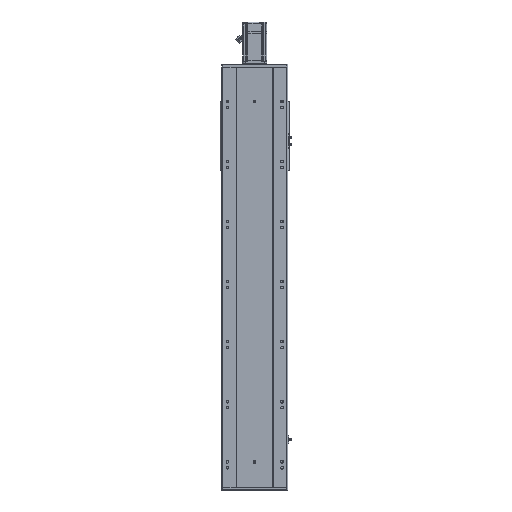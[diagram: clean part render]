
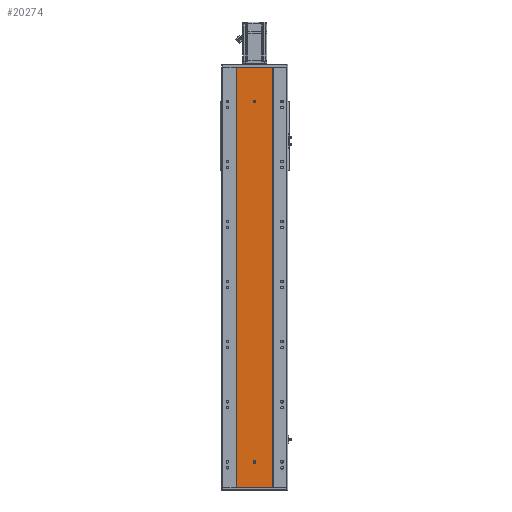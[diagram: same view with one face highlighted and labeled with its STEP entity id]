
A CAD part, front view. The second image highlights one B-rep face of the part: STEP entity #20274.
In plain terms, the highlighted planar face has unit normal (0, -1, 0).
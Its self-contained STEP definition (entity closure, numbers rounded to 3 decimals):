
#84 = VERTEX_POINT ( 'NONE', #32484 ) ;
#205 = DIRECTION ( 'NONE',  ( 0., -1., 0. ) ) ;
#1936 = VECTOR ( 'NONE', #26416, 1000. ) ;
#2653 = ORIENTED_EDGE ( 'NONE', *, *, #46954, .F. ) ;
#3609 = DIRECTION ( 'NONE',  ( 0., 0., -1. ) ) ;
#5309 = DIRECTION ( 'NONE',  ( 0., -1., 0. ) ) ;
#6714 = CARTESIAN_POINT ( 'NONE',  ( 0., 0., 1286. ) ) ;
#6964 = DIRECTION ( 'NONE',  ( 0., 1., 0. ) ) ;
#8021 = AXIS2_PLACEMENT_3D ( 'NONE', #56884, #6964, #63190 ) ;
#8202 = EDGE_LOOP ( 'NONE', ( #26762, #40699, #38052, #24310 ) ) ;
#8261 = EDGE_CURVE ( 'NONE', #84, #62556, #44749, .T. ) ;
#8438 = AXIS2_PLACEMENT_3D ( 'NONE', #14699, #58693, #3609 ) ;
#8534 = CARTESIAN_POINT ( 'NONE',  ( 4., 0., 84.5 ) ) ;
#10988 = CARTESIAN_POINT ( 'NONE',  ( 0., 0., 87.5 ) ) ;
#11557 = EDGE_CURVE ( 'NONE', #46070, #67801, #40801, .T. ) ;
#12675 = VECTOR ( 'NONE', #36760, 1000. ) ;
#12788 = CARTESIAN_POINT ( 'NONE',  ( -60., 0., 0. ) ) ;
#14699 = CARTESIAN_POINT ( 'NONE',  ( 0., 0., 1286. ) ) ;
#15151 = EDGE_CURVE ( 'NONE', #56654, #72740, #41499, .T. ) ;
#15365 = EDGE_CURVE ( 'NONE', #62556, #38494, #57344, .T. ) ;
#15594 = CARTESIAN_POINT ( 'NONE',  ( 60., 0., 1400. ) ) ;
#15865 = EDGE_CURVE ( 'NONE', #46070, #32328, #37876, .T. ) ;
#16155 = AXIS2_PLACEMENT_3D ( 'NONE', #51886, #18473, #56817 ) ;
#16164 = EDGE_LOOP ( 'NONE', ( #18832, #52267 ) ) ;
#18473 = DIRECTION ( 'NONE',  ( 0., -1., 0. ) ) ;
#18832 = ORIENTED_EDGE ( 'NONE', *, *, #15151, .F. ) ;
#19740 = DIRECTION ( 'NONE',  ( 0., -1., 0. ) ) ;
#20270 = DIRECTION ( 'NONE',  ( 1., 0., 0. ) ) ;
#20274 = ADVANCED_FACE ( 'NONE', ( #41723, #38182, #51418 ), #67611, .F. ) ;
#20291 = DIRECTION ( 'NONE',  ( 1., 0., 0. ) ) ;
#21464 = EDGE_CURVE ( 'NONE', #38494, #70655, #71598, .T. ) ;
#23655 = VERTEX_POINT ( 'NONE', #52208 ) ;
#23680 = ORIENTED_EDGE ( 'NONE', *, *, #72569, .F. ) ;
#23821 = CARTESIAN_POINT ( 'NONE',  ( -4., 0., 84.5 ) ) ;
#23957 = CARTESIAN_POINT ( 'NONE',  ( -60., 0., 1400. ) ) ;
#24310 = ORIENTED_EDGE ( 'NONE', *, *, #11557, .T. ) ;
#25848 = LINE ( 'NONE', #8534, #12675 ) ;
#26416 = DIRECTION ( 'NONE',  ( 0., 0., -1. ) ) ;
#26427 = DIRECTION ( 'NONE',  ( 0., 0., -1. ) ) ;
#26762 = ORIENTED_EDGE ( 'NONE', *, *, #47469, .T. ) ;
#27474 = DIRECTION ( 'NONE',  ( 0., 0., -1. ) ) ;
#27781 = VERTEX_POINT ( 'NONE', #70910 ) ;
#27894 = CARTESIAN_POINT ( 'NONE',  ( -60., 0., 1400. ) ) ;
#28276 = VECTOR ( 'NONE', #20291, 1000. ) ;
#29846 = VECTOR ( 'NONE', #63546, 1000. ) ;
#30663 = EDGE_CURVE ( 'NONE', #32328, #27781, #48542, .T. ) ;
#32328 = VERTEX_POINT ( 'NONE', #66126 ) ;
#32484 = CARTESIAN_POINT ( 'NONE',  ( -4., 0., 87.5 ) ) ;
#35894 = AXIS2_PLACEMENT_3D ( 'NONE', #6714, #19740, #26427 ) ;
#36713 = CARTESIAN_POINT ( 'NONE',  ( -60., 0., 1400. ) ) ;
#36760 = DIRECTION ( 'NONE',  ( 0., 0., 1. ) ) ;
#37876 = LINE ( 'NONE', #36713, #28276 ) ;
#37887 = CARTESIAN_POINT ( 'NONE',  ( -60., 0., 0. ) ) ;
#38052 = ORIENTED_EDGE ( 'NONE', *, *, #15865, .F. ) ;
#38182 = FACE_BOUND ( 'NONE', #62821, .T. ) ;
#38464 = CARTESIAN_POINT ( 'NONE',  ( 0., 0., 1290. ) ) ;
#38494 = VERTEX_POINT ( 'NONE', #41879 ) ;
#38860 = CIRCLE ( 'NONE', #57390, 4. ) ;
#40273 = CARTESIAN_POINT ( 'NONE',  ( 4., 0., 84.5 ) ) ;
#40699 = ORIENTED_EDGE ( 'NONE', *, *, #30663, .F. ) ;
#40801 = LINE ( 'NONE', #23957, #64515 ) ;
#40859 = DIRECTION ( 'NONE',  ( 0., 0., -1. ) ) ;
#41499 = CIRCLE ( 'NONE', #35894, 4. ) ;
#41723 = FACE_BOUND ( 'NONE', #16164, .T. ) ;
#41879 = CARTESIAN_POINT ( 'NONE',  ( 0., 0., 80.5 ) ) ;
#44338 = ORIENTED_EDGE ( 'NONE', *, *, #8261, .F. ) ;
#44749 = LINE ( 'NONE', #23821, #29846 ) ;
#45728 = DIRECTION ( 'NONE',  ( 0., 0., -1. ) ) ;
#46070 = VERTEX_POINT ( 'NONE', #27894 ) ;
#46954 = EDGE_CURVE ( 'NONE', #23655, #84, #38860, .T. ) ;
#47469 = EDGE_CURVE ( 'NONE', #67801, #27781, #59861, .T. ) ;
#48542 = LINE ( 'NONE', #15594, #1936 ) ;
#50059 = CIRCLE ( 'NONE', #8438, 4. ) ;
#51418 = FACE_OUTER_BOUND ( 'NONE', #8202, .T. ) ;
#51886 = CARTESIAN_POINT ( 'NONE',  ( 0., 0., 84.5 ) ) ;
#52208 = CARTESIAN_POINT ( 'NONE',  ( 4., 0., 87.5 ) ) ;
#52267 = ORIENTED_EDGE ( 'NONE', *, *, #67883, .F. ) ;
#53798 = VECTOR ( 'NONE', #20270, 1000. ) ;
#55487 = ORIENTED_EDGE ( 'NONE', *, *, #15365, .F. ) ;
#56654 = VERTEX_POINT ( 'NONE', #61736 ) ;
#56817 = DIRECTION ( 'NONE',  ( 0., 0., -1. ) ) ;
#56884 = CARTESIAN_POINT ( 'NONE',  ( -60., 0., 1400. ) ) ;
#57344 = CIRCLE ( 'NONE', #59876, 4. ) ;
#57390 = AXIS2_PLACEMENT_3D ( 'NONE', #10988, #5309, #27474 ) ;
#58693 = DIRECTION ( 'NONE',  ( 0., -1., 0. ) ) ;
#59861 = LINE ( 'NONE', #37887, #53798 ) ;
#59876 = AXIS2_PLACEMENT_3D ( 'NONE', #61846, #205, #45728 ) ;
#61736 = CARTESIAN_POINT ( 'NONE',  ( 0., 0., 1282. ) ) ;
#61846 = CARTESIAN_POINT ( 'NONE',  ( 0., 0., 84.5 ) ) ;
#62556 = VERTEX_POINT ( 'NONE', #65592 ) ;
#62821 = EDGE_LOOP ( 'NONE', ( #23680, #71094, #55487, #44338, #2653 ) ) ;
#63190 = DIRECTION ( 'NONE',  ( 0., 0., 1. ) ) ;
#63546 = DIRECTION ( 'NONE',  ( 0., 0., -1. ) ) ;
#64515 = VECTOR ( 'NONE', #40859, 1000. ) ;
#65592 = CARTESIAN_POINT ( 'NONE',  ( -4., 0., 84.5 ) ) ;
#66126 = CARTESIAN_POINT ( 'NONE',  ( 60., 0., 1400. ) ) ;
#67611 = PLANE ( 'NONE',  #8021 ) ;
#67801 = VERTEX_POINT ( 'NONE', #12788 ) ;
#67883 = EDGE_CURVE ( 'NONE', #72740, #56654, #50059, .T. ) ;
#70655 = VERTEX_POINT ( 'NONE', #40273 ) ;
#70910 = CARTESIAN_POINT ( 'NONE',  ( 60., 0., 0. ) ) ;
#71094 = ORIENTED_EDGE ( 'NONE', *, *, #21464, .F. ) ;
#71598 = CIRCLE ( 'NONE', #16155, 4. ) ;
#72569 = EDGE_CURVE ( 'NONE', #70655, #23655, #25848, .T. ) ;
#72740 = VERTEX_POINT ( 'NONE', #38464 ) ;
